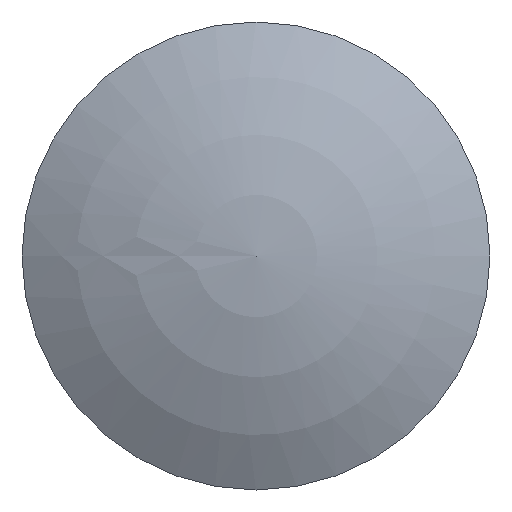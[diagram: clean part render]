
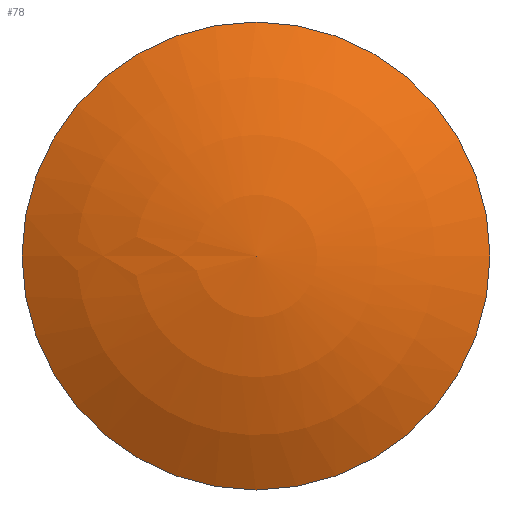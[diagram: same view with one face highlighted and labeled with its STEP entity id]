
A CAD part, front view. The second image highlights one B-rep face of the part: STEP entity #78.
In plain terms, the highlighted spherical face has radius 6.925 mm.
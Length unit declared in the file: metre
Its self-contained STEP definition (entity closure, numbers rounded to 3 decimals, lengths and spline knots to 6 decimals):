
#13=SPHERICAL_SURFACE('',#104,0.006925);
#26=ORIENTED_EDGE('',*,*,#30,.F.);
#30=EDGE_CURVE('',#36,#36,#42,.T.);
#36=VERTEX_POINT('',#139);
#42=CIRCLE('',#95,0.003458);
#56=EDGE_LOOP('',(#26));
#68=FACE_BOUND('',#56,.T.);
#78=ADVANCED_FACE('',(#68),#13,.T.);
#95=AXIS2_PLACEMENT_3D('',#138,#112,#113);
#104=AXIS2_PLACEMENT_3D('',#152,#130,#131);
#112=DIRECTION('',(0.,1.,0.));
#113=DIRECTION('',(1.,0.,0.));
#130=DIRECTION('',(0.,1.,0.));
#131=DIRECTION('',(-1.,0.,0.));
#138=CARTESIAN_POINT('',(-0.092677,-0.070801,-0.025701));
#139=CARTESIAN_POINT('',(-0.089219,-0.070801,-0.025701));
#152=CARTESIAN_POINT('',(-0.092677,-0.064801,-0.025701));
